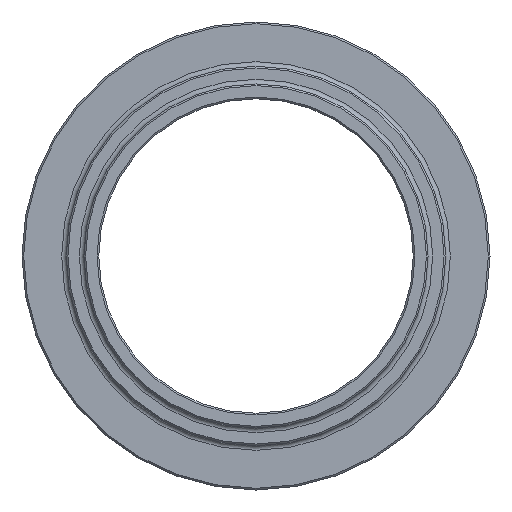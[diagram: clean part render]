
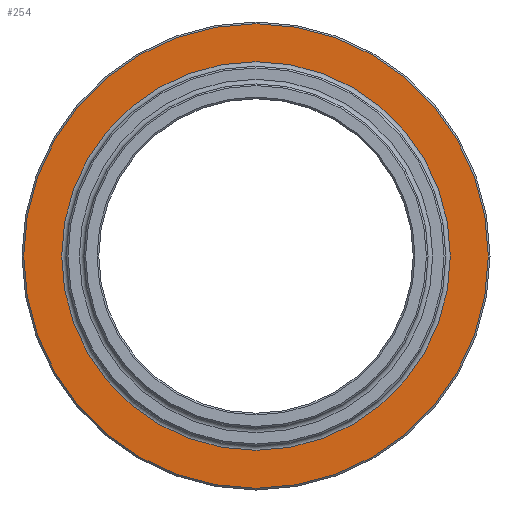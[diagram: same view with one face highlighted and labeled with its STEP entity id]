
A CAD part, left-side view. The second image highlights one B-rep face of the part: STEP entity #254.
In plain terms, the highlighted planar face has unit normal (-1, 0, 0).
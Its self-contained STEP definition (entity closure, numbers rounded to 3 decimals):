
#22=FACE_BOUND('',#76,.T.);
#26=PLANE('',#303);
#58=FACE_OUTER_BOUND('',#75,.T.);
#75=EDGE_LOOP('',(#199));
#76=EDGE_LOOP('',(#200));
#98=CIRCLE('',#298,34.05);
#102=CIRCLE('',#304,40.7);
#123=VERTEX_POINT('',#445);
#126=VERTEX_POINT('',#456);
#149=EDGE_CURVE('',#123,#123,#98,.T.);
#154=EDGE_CURVE('',#126,#126,#102,.T.);
#199=ORIENTED_EDGE('',*,*,#154,.F.);
#200=ORIENTED_EDGE('',*,*,#149,.F.);
#254=ADVANCED_FACE('',(#58,#22),#26,.T.);
#298=AXIS2_PLACEMENT_3D('',#447,#356,#357);
#303=AXIS2_PLACEMENT_3D('',#455,#367,#368);
#304=AXIS2_PLACEMENT_3D('',#457,#369,#370);
#356=DIRECTION('center_axis',(-1.,0.,0.));
#357=DIRECTION('ref_axis',(0.,-1.,0.));
#367=DIRECTION('center_axis',(-1.,0.,0.));
#368=DIRECTION('ref_axis',(0.,0.,1.));
#369=DIRECTION('center_axis',(1.,0.,0.));
#370=DIRECTION('ref_axis',(0.,-1.,0.));
#445=CARTESIAN_POINT('',(-3.5,0.,34.05));
#447=CARTESIAN_POINT('Origin',(-3.5,0.,0.));
#455=CARTESIAN_POINT('Origin',(-3.5,41.,0.));
#456=CARTESIAN_POINT('',(-3.5,40.7,0.));
#457=CARTESIAN_POINT('Origin',(-3.5,0.,0.));
